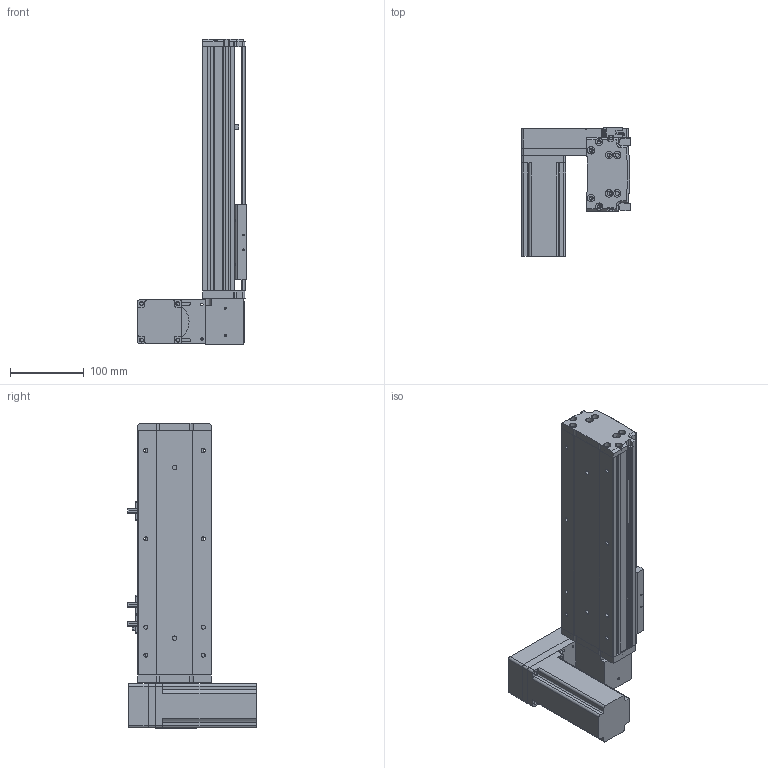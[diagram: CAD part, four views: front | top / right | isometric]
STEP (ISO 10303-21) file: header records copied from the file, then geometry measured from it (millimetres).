
FILE_DESCRIPTION (( 'STEP AP214' ), '1' );
FILE_NAME ('KSD100B-S150-MLD-CM.STEP', '2019-11-09T08:04:18', ( '微软用户' ), ( '微软中国' ), 'SwSTEP 2.0', 'SolidWorks 2014', '' );
FILE_SCHEMA (( 'AUTOMOTIVE_DESIGN' ));
Length unit declared in the file: millimetre
Products named in the file (12): 100宽同步带安装板半封闭; 100宽马达安装板同步带; 100遵傷啣肮祭湍; 100宽底板半封闭同步带150行程; KSD100B-S150-MLD-CM; 悵誘欶奻狟殏; 100宽马达安装板连板上下折丝杆同步带; 台达ECMA－C20604AS伺服电机; U倰嫖萇EEㄜSX672; 覜茼え100遵圉猾敕; 100宽防尘板150行程-同步带; 100宽马达安装板同步带左
Assembly tree (13 placements, depth 2):
  KSD100B-S150-MLD-CM
    100宽底板半封闭同步带150行程
    100遵傷啣肮祭湍
    100宽马达安装板同步带
    100宽同步带安装板半封闭
    100宽马达安装板同步带左
    100宽防尘板150行程-同步带
    覜茼え100遵圉猾敕
    U倰嫖萇EEㄜSX672  x3
    台达ECMA－C20604AS伺服电机
    100宽马达安装板连板上下折丝杆同步带
    悵誘欶奻狟殏
Bounding box: 148 x 174.7 x 415 mm (x, y, z)
Volume: 1405018 mm3; surface area: 418173.9 mm2
Topology: 14 solids, 14 shells, 1249 faces, 3480 edges, 2247 vertices
Faces by surface type: cylinder 599, plane 567, cone 83
Entity records: 42541 total; most frequent: CARTESIAN_POINT 7480, DIRECTION 5972, ORIENTED_EDGE 5700, EDGE_CURVE 2850, AXIS2_PLACEMENT_3D 2157, VERTEX_POINT 1871, VECTOR 1658, LINE 1658
